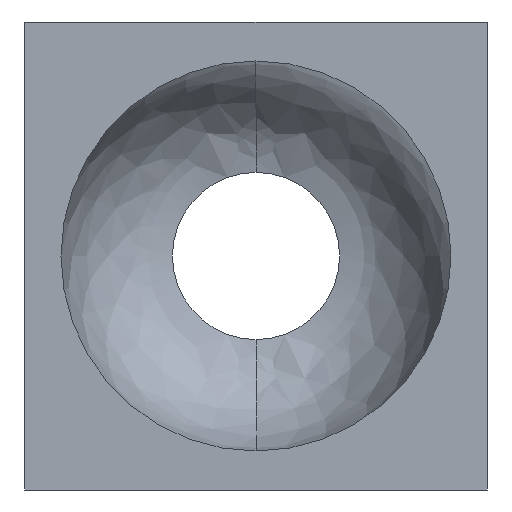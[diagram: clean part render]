
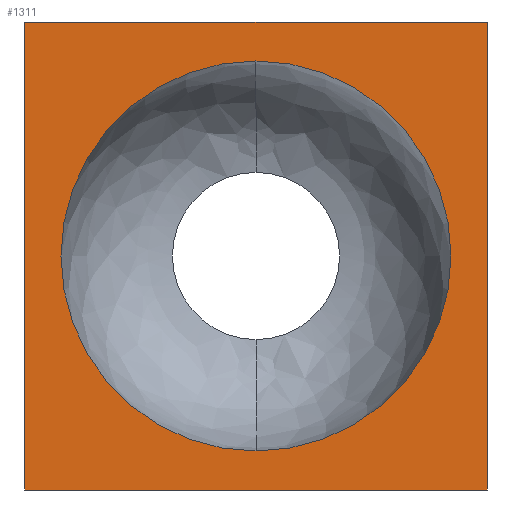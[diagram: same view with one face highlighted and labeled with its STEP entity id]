
A CAD part, front view. The second image highlights one B-rep face of the part: STEP entity #1311.
In plain terms, the highlighted planar face has unit normal (0, -1, 0).
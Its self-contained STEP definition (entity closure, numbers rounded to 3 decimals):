
#58 = DIRECTION ( 'NONE',  ( 1., 0., 0. ) ) ;
#151 = VECTOR ( 'NONE', #58, 1000. ) ;
#193 = DIRECTION ( 'NONE',  ( -1., 0., 0. ) ) ;
#255 = CARTESIAN_POINT ( 'NONE',  ( 20.75, -9.5, 21. ) ) ;
#278 = CARTESIAN_POINT ( 'NONE',  ( -20.75, -9.5, -21. ) ) ;
#280 = EDGE_CURVE ( 'NONE', #458, #612, #1232, .T. ) ;
#293 = CARTESIAN_POINT ( 'NONE',  ( -20.75, -9.5, 21. ) ) ;
#342 = FACE_BOUND ( 'NONE', #1131, .T. ) ;
#358 = ORIENTED_EDGE ( 'NONE', *, *, #878, .T. ) ;
#368 = ORIENTED_EDGE ( 'NONE', *, *, #1479, .F. ) ;
#375 = AXIS2_PLACEMENT_3D ( 'NONE', #991, #1115, #502 ) ;
#405 = VECTOR ( 'NONE', #193, 1000. ) ;
#426 = DIRECTION ( 'NONE',  ( 0., 0., 1. ) ) ;
#430 = CARTESIAN_POINT ( 'NONE',  ( 20.75, -9.5, -21. ) ) ;
#436 = CARTESIAN_POINT ( 'NONE',  ( 0., -9.5, 17.5 ) ) ;
#449 = LINE ( 'NONE', #255, #986 ) ;
#458 = VERTEX_POINT ( 'NONE', #760 ) ;
#470 = DIRECTION ( 'NONE',  ( 0., 1., 0. ) ) ;
#475 = CARTESIAN_POINT ( 'NONE',  ( 0., -9.5, 0. ) ) ;
#502 = DIRECTION ( 'NONE',  ( 0., 0., -1. ) ) ;
#558 = CIRCLE ( 'NONE', #1274, 17.5 ) ;
#593 = PLANE ( 'NONE',  #375 ) ;
#612 = VERTEX_POINT ( 'NONE', #865 ) ;
#621 = CIRCLE ( 'NONE', #1606, 17.5 ) ;
#635 = ORIENTED_EDGE ( 'NONE', *, *, #970, .F. ) ;
#667 = DIRECTION ( 'NONE',  ( 0., 0., -1. ) ) ;
#673 = EDGE_CURVE ( 'NONE', #1276, #1364, #621, .T. ) ;
#750 = DIRECTION ( 'NONE',  ( 0., 0., 1. ) ) ;
#760 = CARTESIAN_POINT ( 'NONE',  ( -20.75, -9.5, 21. ) ) ;
#830 = CARTESIAN_POINT ( 'NONE',  ( 0., -9.5, 0. ) ) ;
#865 = CARTESIAN_POINT ( 'NONE',  ( 20.75, -9.5, 21. ) ) ;
#878 = EDGE_CURVE ( 'NONE', #1364, #1276, #558, .T. ) ;
#900 = VERTEX_POINT ( 'NONE', #430 ) ;
#954 = EDGE_LOOP ( 'NONE', ( #368, #1453, #1206, #635 ) ) ;
#970 = EDGE_CURVE ( 'NONE', #900, #1350, #1262, .T. ) ;
#986 = VECTOR ( 'NONE', #667, 1000. ) ;
#991 = CARTESIAN_POINT ( 'NONE',  ( 0., -9.5, 0. ) ) ;
#1085 = DIRECTION ( 'NONE',  ( 0., 0., 1. ) ) ;
#1115 = DIRECTION ( 'NONE',  ( 0., -1., 0. ) ) ;
#1122 = CARTESIAN_POINT ( 'NONE',  ( -20.75, -9.5, 21. ) ) ;
#1131 = EDGE_LOOP ( 'NONE', ( #358, #1186 ) ) ;
#1153 = CARTESIAN_POINT ( 'NONE',  ( 0., -9.5, -17.5 ) ) ;
#1186 = ORIENTED_EDGE ( 'NONE', *, *, #673, .T. ) ;
#1199 = DIRECTION ( 'NONE',  ( 0., 1., 0. ) ) ;
#1206 = ORIENTED_EDGE ( 'NONE', *, *, #1642, .F. ) ;
#1232 = LINE ( 'NONE', #1122, #151 ) ;
#1252 = CARTESIAN_POINT ( 'NONE',  ( -20.75, -9.5, -21. ) ) ;
#1262 = LINE ( 'NONE', #278, #405 ) ;
#1274 = AXIS2_PLACEMENT_3D ( 'NONE', #830, #1199, #1085 ) ;
#1276 = VERTEX_POINT ( 'NONE', #436 ) ;
#1311 = ADVANCED_FACE ( 'NONE', ( #342, #1374 ), #593, .T. ) ;
#1318 = LINE ( 'NONE', #293, #1356 ) ;
#1350 = VERTEX_POINT ( 'NONE', #1252 ) ;
#1356 = VECTOR ( 'NONE', #426, 1000. ) ;
#1364 = VERTEX_POINT ( 'NONE', #1153 ) ;
#1374 = FACE_OUTER_BOUND ( 'NONE', #954, .T. ) ;
#1453 = ORIENTED_EDGE ( 'NONE', *, *, #280, .F. ) ;
#1479 = EDGE_CURVE ( 'NONE', #612, #900, #449, .T. ) ;
#1606 = AXIS2_PLACEMENT_3D ( 'NONE', #475, #470, #750 ) ;
#1642 = EDGE_CURVE ( 'NONE', #1350, #458, #1318, .T. ) ;
